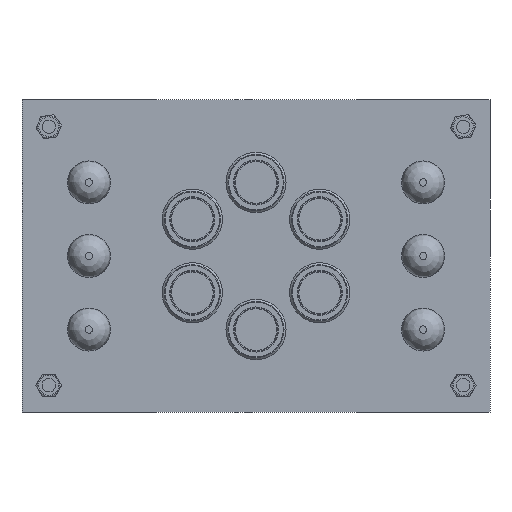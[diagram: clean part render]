
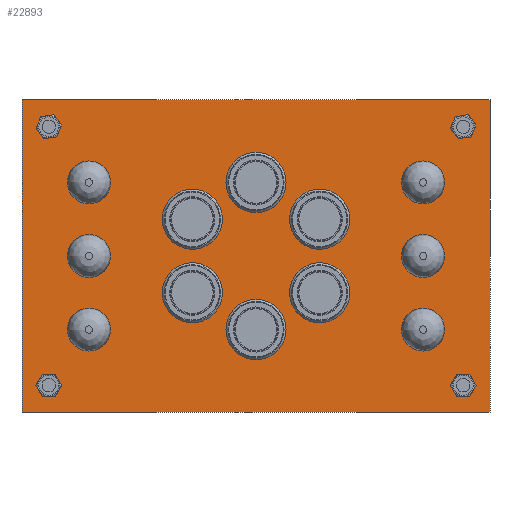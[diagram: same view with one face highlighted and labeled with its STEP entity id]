
A CAD part, front view. The second image highlights one B-rep face of the part: STEP entity #22893.
In plain terms, the highlighted planar face has unit normal (0, -1, 0).
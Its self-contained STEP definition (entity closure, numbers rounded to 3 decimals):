
#1797=LINE('',#33420,#3093);
#1798=LINE('',#33422,#3094);
#1799=LINE('',#33424,#3095);
#1800=LINE('',#33425,#3096);
#3093=VECTOR('',#27052,10.);
#3094=VECTOR('',#27053,10.);
#3095=VECTOR('',#27054,10.);
#3096=VECTOR('',#27055,10.);
#4585=FACE_OUTER_BOUND('',#6005,.T.);
#6005=EDGE_LOOP('',(#14197,#14198,#14199,#14200));
#8639=VERTEX_POINT('',#33418);
#8640=VERTEX_POINT('',#33419);
#8641=VERTEX_POINT('',#33421);
#8642=VERTEX_POINT('',#33423);
#10805=EDGE_CURVE('',#8639,#8640,#1797,.T.);
#10806=EDGE_CURVE('',#8640,#8641,#1798,.T.);
#10807=EDGE_CURVE('',#8641,#8642,#1799,.T.);
#10808=EDGE_CURVE('',#8642,#8639,#1800,.T.);
#14197=ORIENTED_EDGE('',*,*,#10805,.T.);
#14198=ORIENTED_EDGE('',*,*,#10806,.T.);
#14199=ORIENTED_EDGE('',*,*,#10807,.T.);
#14200=ORIENTED_EDGE('',*,*,#10808,.T.);
#20823=PLANE('',#24438);
#22893=ADVANCED_FACE('',(#4585),#20823,.F.);
#24438=AXIS2_PLACEMENT_3D('',#33417,#27050,#27051);
#27050=DIRECTION('center_axis',(0.,1.,0.));
#27051=DIRECTION('ref_axis',(0.,0.,
1.));
#27052=DIRECTION('',(-1.,0.,0.));
#27053=DIRECTION('',(0.,0.,-1.));
#27054=DIRECTION('',(1.,0.,0.));
#27055=DIRECTION('',(0.,0.,1.));
#33417=CARTESIAN_POINT('Origin',(0.,-19.7,0.));
#33418=CARTESIAN_POINT('',(105.,-19.7,70.));
#33419=CARTESIAN_POINT('',(-105.,-19.7,70.));
#33420=CARTESIAN_POINT('',(105.,-19.7,70.));
#33421=CARTESIAN_POINT('',(-105.,-19.7,-70.));
#33422=CARTESIAN_POINT('',(-105.,-19.7,70.));
#33423=CARTESIAN_POINT('',(105.,-19.7,-70.));
#33424=CARTESIAN_POINT('',(-105.,-19.7,-70.));
#33425=CARTESIAN_POINT('',(105.,-19.7,-70.));
